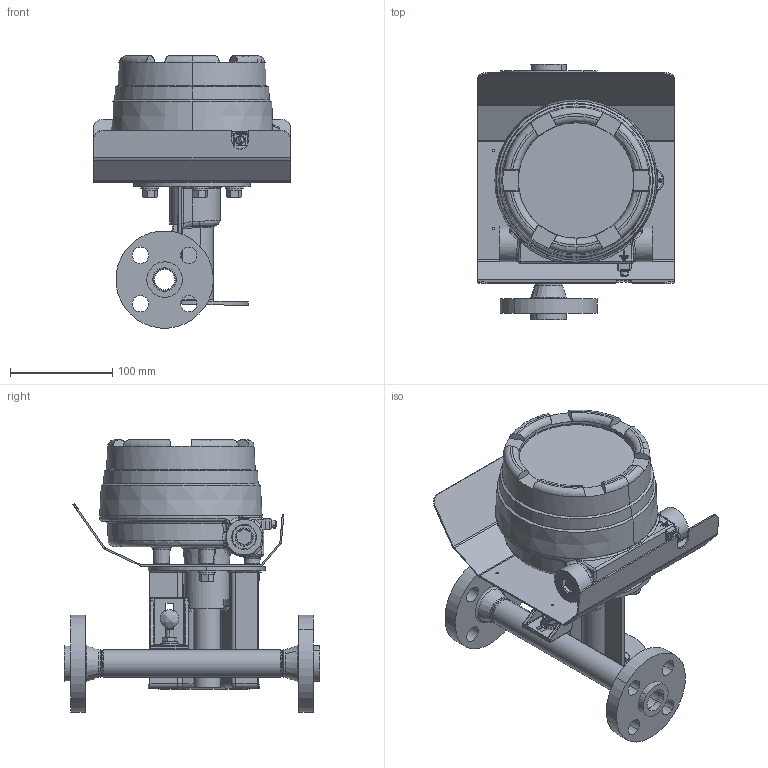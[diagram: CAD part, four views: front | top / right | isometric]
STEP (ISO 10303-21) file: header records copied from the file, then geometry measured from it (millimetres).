
FILE_DESCRIPTION (( 'STEP AP214' ), '1' );
FILE_NAME ('3809G-A-07-H-5-A-0.STEP', '2025-09-08T16:13:31', ( '' ), ( '' ), 'SwSTEP 2.0', 'SolidWorks 2023', '' );
FILE_SCHEMA (( 'AUTOMOTIVE_DESIGN' ));
Length unit declared in the file: inch
Products named in the file (19): 751D552; 101z106_a; 573b022_a_1; XP HighTemp_sz07; 106Y895; 206Z379; 795z156_C; 441C668; 854z180_a; 926Y181; 315S067_4452K545; 442C057; 962D031; 962A031; 926Z790; 328Z073_328F075; 106Y883; 389Z122; 3809G-A-07-H-5-A-0
Assembly tree (42 placements, depth 3):
  3809G-A-07-H-5-A-0
    328Z073_328F075  x2
    926Z790
    XP HighTemp_sz07
      442C057
      389Z122
      441C668
      926Y181
      106Y895
      962D031  x8
      962A031  x8
      751D552  x4
      106Y883
      101z106_a
      573b022_a_1  x4
      206Z379
      795z156_C
      854z180_a  x3
    315S067_4452K545  x2
Bounding box: 192.53 x 250 x 266.09 mm (x, y, z)
Volume: 1224981.5 mm3; surface area: 509186.4 mm2
Topology: 44 solids, 44 shells, 1369 faces, 3226 edges, 1933 vertices
Faces by surface type: cylinder 434, plane 389, cone 278, bspline 172, torus 66, sphere 30
Entity records: 45193 total; most frequent: CARTESIAN_POINT 20494, ORIENTED_EDGE 5018, DIRECTION 5012, EDGE_CURVE 2509, AXIS2_PLACEMENT_3D 2032, VERTEX_POINT 1527, EDGE_LOOP 1200, FACE_OUTER_BOUND 1078
